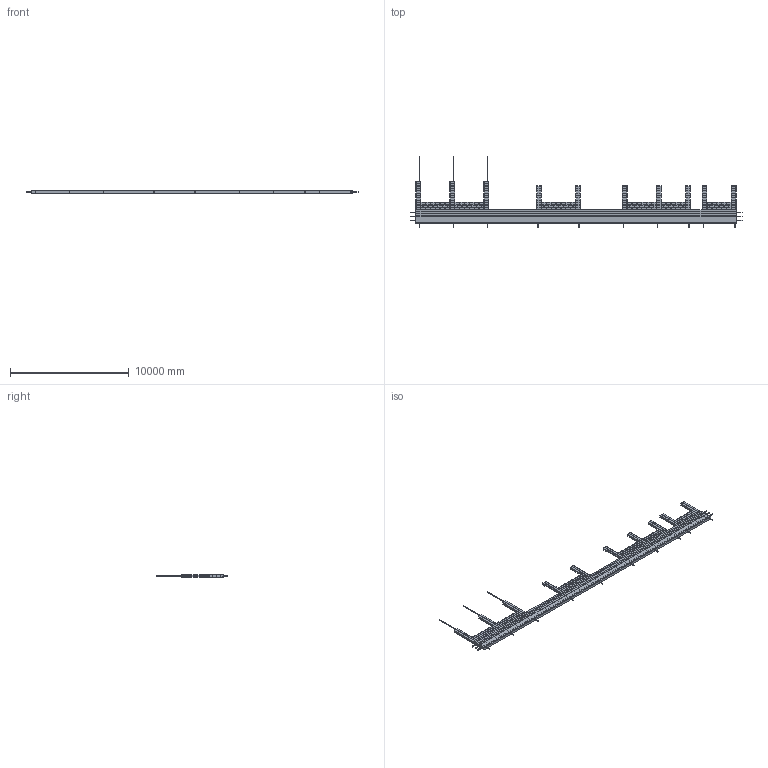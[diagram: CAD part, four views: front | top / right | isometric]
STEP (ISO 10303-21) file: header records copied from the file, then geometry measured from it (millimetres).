
FILE_DESCRIPTION (( 'STEP AP214' ), '1' );
FILE_NAME ('轻仇赅_玎犷疣.STEP', '2023-10-18T12:51:54', ( '' ), ( '' ), 'SwSTEP 2.0', 'SolidWorks 2021', '' );
FILE_SCHEMA (( 'AUTOMOTIVE_DESIGN' ));
Length unit declared in the file: millimetre
Products named in the file (18): Äîñêà 150õ25õ6000; ﾏｳ鸚盖犱; Çá³ðêà àðìàòóðíîãî êàðêàñó; 岭铌 400x200x200^轻仇赅_玎犷疣; 400x200x200_镱腩忤黻郶轻仇赅_玎犷疣; Ôóíäàìåíò çàáîðà; Òðóáà _60õ60õ3; Àðìàòóðà Ã; 牆憵覷譇; Òðóáà _40õ20õ2; 扰儑罻 400x200x200; 昜鳪鶋罻; Õîìóò ïðîâîëî÷íèé; ш喫罻_諘搿譇
Assembly tree (423 placements, depth 3):
  ш喫罻_諘搿譇
    Ôóíäàìåíò çàáîðà
    ﾏｳ鸚盖犱
    岭铌 400x200x200^轻仇赅_玎犷疣  x205
    Òðóáà _40õ20õ2  x7
    400x200x200_镱腩忤黻郶轻仇赅_玎犷疣  x12
    Çá³ðêà àðìàòóðíîãî êàðêàñó
      牆憵覷譇  x5
      Õîìóò ïðîâîëî÷íèé  x54
      Àðìàòóðà Ã  x70
    Òðóáà _60õ60õ3  x3
    扰儑罻 400x200x200  x42
    昜鳪鶋罻  x2
      Äîñêà 150õ25õ6000
      Äîñêà 150õ25õ6000
      Äîñêà 150õ25õ6000
      Äîñêà 150õ25õ6000
      Äîñêà 150õ25õ6000
Bounding box: 28000 x 6000 x 250 mm (x, y, z)
Volume: 8376311300.1 mm3; surface area: 303482022.7 mm2
Topology: 465 solids, 465 shells, 7809 faces, 19925 edges, 12938 vertices
Faces by surface type: plane 3806, cylinder 3431, torus 572
Entity records: 9571 total; most frequent: DIRECTION 1782, CARTESIAN_POINT 1318, ORIENTED_EDGE 852, AXIS2_PLACEMENT_3D 742, PRODUCT_DEFINITION_SHAPE 441, EDGE_CURVE 426, CONTEXT_DEPENDENT_SHAPE_REPRESENTATION 423, ITEM_DEFINED_TRANSFORMATION 423
